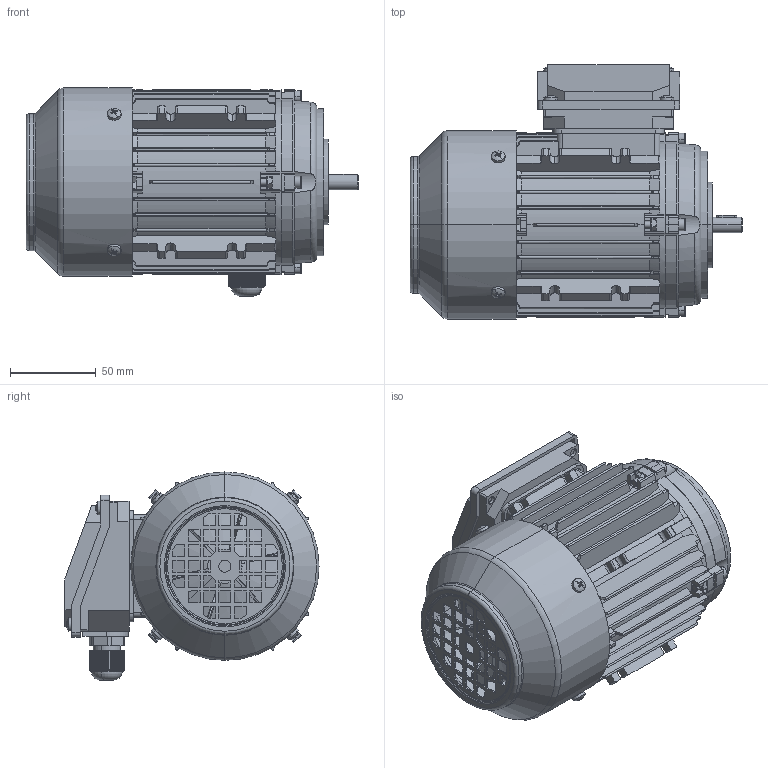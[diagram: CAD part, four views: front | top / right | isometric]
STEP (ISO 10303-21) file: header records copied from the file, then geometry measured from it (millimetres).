
FILE_DESCRIPTION (( 'STEP AP214' ), '1' );
FILE_NAME ('BMT1012.05C214.11.step', '2020-04-23T20:15:28', ( '' ), ( '' ), 'SwSTEP 2.0', 'SolidWorks 2019', '' );
FILE_SCHEMA (( 'AUTOMOTIVE_DESIGN' ));
Length unit declared in the file: millimetre
Products named in the file (1): BMT1012.05C214.11
Bounding box: 194.04 x 148.55 x 121.59 mm (x, y, z)
Volume: 304695.3 mm3; surface area: 293661.1 mm2
Topology: 29 solids, 29 shells, 2377 faces, 6490 edges, 4227 vertices
Faces by surface type: plane 1328, cylinder 670, cone 232, torus 131, sphere 16
Entity records: 85658 total; most frequent: CARTESIAN_POINT 25415, ORIENTED_EDGE 12960, DIRECTION 12023, EDGE_CURVE 6480, AXIS2_PLACEMENT_3D 4290, VERTEX_POINT 4227, LINE 3443, VECTOR 3443
